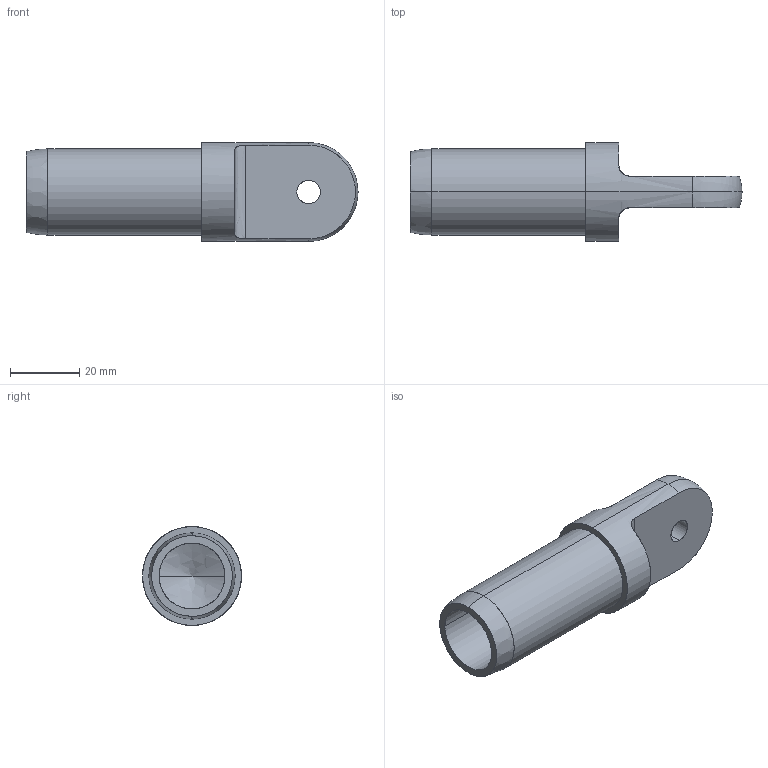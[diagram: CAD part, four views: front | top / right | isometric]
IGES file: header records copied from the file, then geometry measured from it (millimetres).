
Start section: SolidWorks IGES file using analytic representation for surfaces
Global section: file name: \\SERVER3\Design\_New Design Drive Folder List\_Design Vault\AAI\Modular Round Tube Connectors\Solidworks Models\STP Files\12202013\1.000 Inch Modular Connectors\DRP-002-0509-00.IGS; native system: SolidWorks 2013; preprocessor: SolidWorks 2013; author: tbraun; date: 131220.112313; units: inch
Bounding box: 95.97 x 28.57 x 28.57 mm (x, y, z)
Surface area: 11542.8 mm2 (no closed solid volume)
Topology: 0 solids, 0 shells, 22 faces, 464 edges, 461 vertices
Faces by surface type: revolution 14, bspline 8
